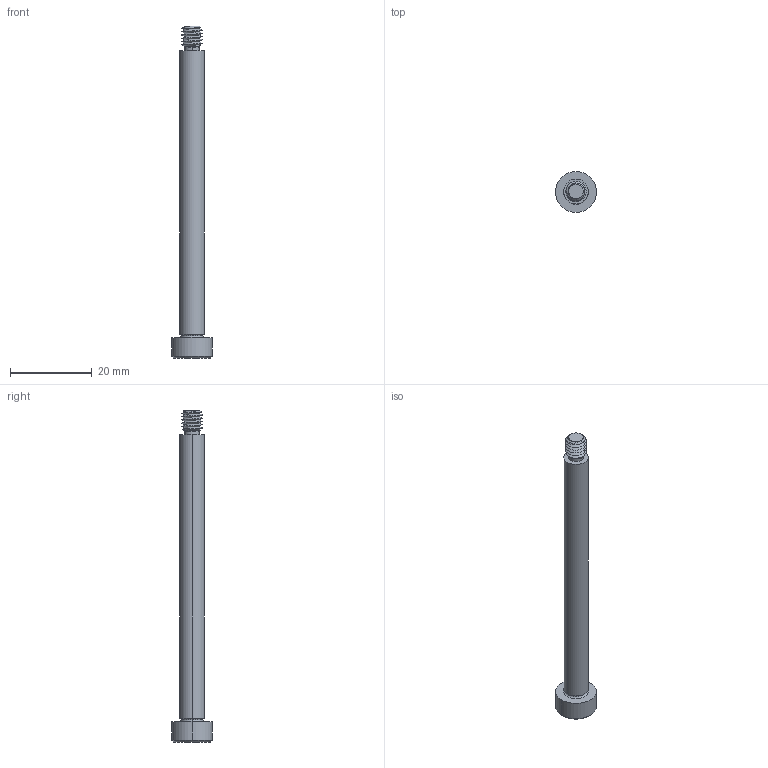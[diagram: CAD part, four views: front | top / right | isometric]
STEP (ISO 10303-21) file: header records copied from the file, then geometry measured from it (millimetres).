
FILE_DESCRIPTION (( 'STEP AP203' ), '1' );
FILE_NAME ('P0130.060-070-B2.step', '2021-11-09T21:30:39', ( '' ), ( '' ), 'SwSTEP 2.0', 'SolidWorks 2019', '' );
FILE_SCHEMA (( 'CONFIG_CONTROL_DESIGN' ));
Length unit declared in the file: millimetre
Products named in the file (1): P0130.060-070-B2
Bounding box: 10 x 10 x 81 mm (x, y, z)
Volume: 2424.7 mm3; surface area: 1807 mm2
Topology: 1 solids, 1 shells, 53 faces, 121 edges, 71 vertices
Faces by surface type: cylinder 17, plane 16, cone 14, torus 4, bspline 2
Entity records: 2367 total; most frequent: CARTESIAN_POINT 1186, ORIENTED_EDGE 238, DIRECTION 226, EDGE_CURVE 119, AXIS2_PLACEMENT_3D 92, VERTEX_POINT 71, EDGE_LOOP 56, ADVANCED_FACE 53
